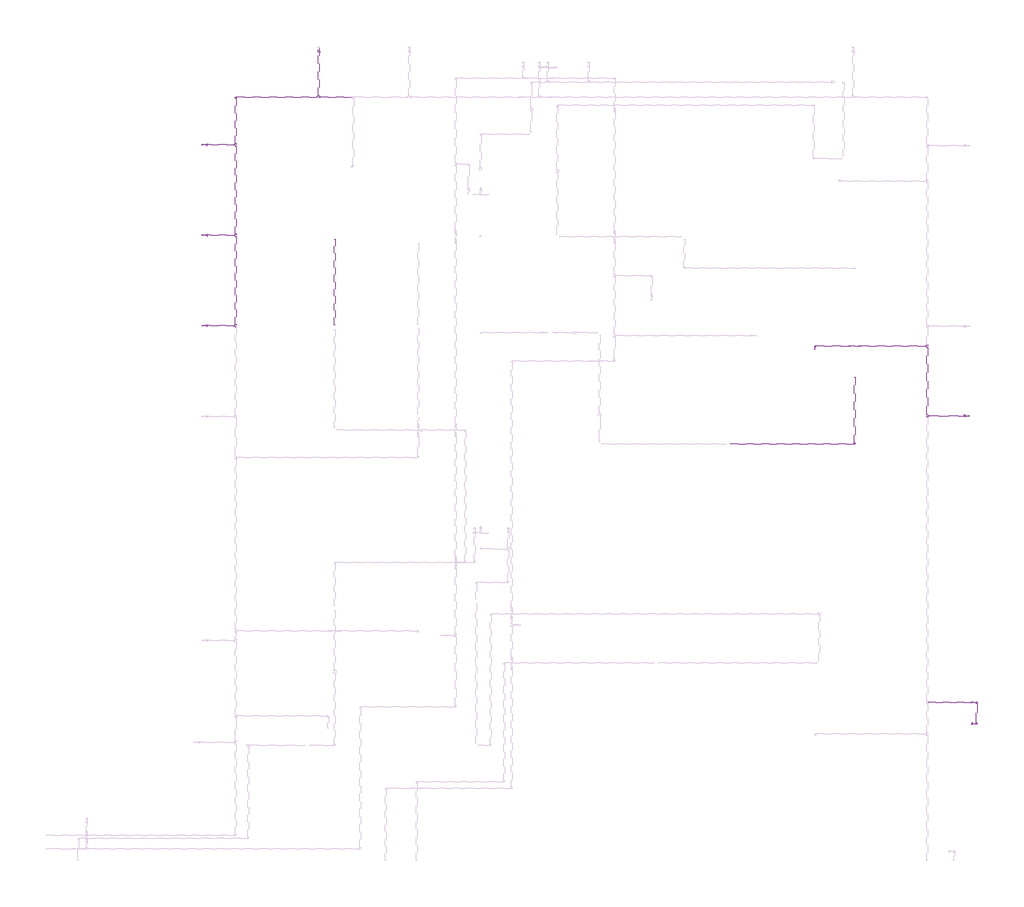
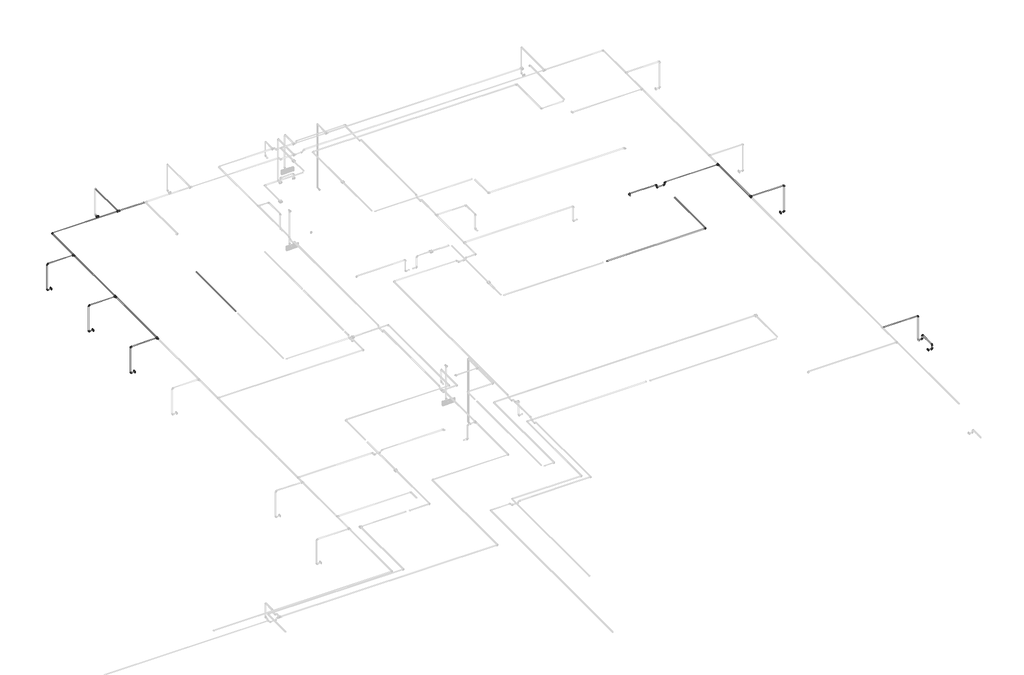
# One storey, part 37 of 40: 36 cable carrier segments, 26 cable carrier fittings, 6 electric appliances.
"""IFC4 building model written with IfcOpenShell, lengths in millimetres."""

from ifc_helpers import new_model, si_unit, point, frame, frame_2d, origin, place, context, project, spatial, circle_curve, trimmed, segment, composite_curve, outline, extrude, transform, mapped, element, save
from components import cable_carrier_fitting_69f1a801, cable_carrier_fitting_8fd13dfc, electric_appliance_5961a143

model = new_model("IFC4")

# Units and contexts
model_context = context("Model", 3, world=origin())
ifc_project = project(units=[si_unit("LENGTHUNIT", "METRE", prefix="MILLI")], contexts=[model_context])

# Site, building, storey
site = spatial("IfcSite", under=ifc_project)
building = spatial("IfcBuilding", under=site)
storey = spatial("IfcBuildingStorey", under=building, Name="1 этаж", Elevation=0.0)

# Cable carrier fittings
placement = place(None, origin())
cable_carrier_fitting_shape = cable_carrier_fitting_69f1a801(model_context)
element("IfcCableCarrierFitting", 1, ObjectType="ADSK_Поворот_Минимальный размер : Неспецифицируемый", at=placement, inside=storey, context=model_context, shape_type="MappedRepresentation", body=[
    mapped(cable_carrier_fitting_shape, transform((18157.6759979, 13844.6370105, 3189.3042076), x_axis=(0.9999999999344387, 0.0, 1.145088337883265e-05), y_axis=(2.4390715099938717e-10, 0.999999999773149, -2.130029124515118e-05), z_axis=(-1.1450883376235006e-05, 2.1300291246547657e-05, 0.9999999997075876))),
])
element("IfcCableCarrierFitting", 2, ObjectType="ADSK_Поворот_Минимальный размер : Неспецифицируемый", at=placement, inside=storey, context=model_context, shape_type="MappedRepresentation", body=[
    mapped(cable_carrier_fitting_shape, transform((5043.4761923, 18044.6370105, 2488.0911237), x_axis=(-1.0, 0.0, 0.0), y_axis=(0.0, 0.0, 1.0), z_axis=(0.0, 1.0, 0.0))),
])
element("IfcCableCarrierFitting", 3, ObjectType="ADSK_Поворот_Минимальный размер : Неспецифицируемый", at=placement, inside=storey, context=model_context, shape_type="MappedRepresentation", body=[
    mapped(cable_carrier_fitting_shape, transform((5043.4761923, 19864.6370105, 2488.0911237), x_axis=(-1.0, 0.0, 0.0), y_axis=(0.0, 0.0, 1.0), z_axis=(0.0, 1.0, 0.0))),
])
element("IfcCableCarrierFitting", 4, ObjectType="ADSK_Поворот_Минимальный размер : Неспецифицируемый", at=placement, inside=storey, context=model_context, shape_type="MappedRepresentation", body=[
    mapped(cable_carrier_fitting_shape, transform((5043.4761923, 19864.6370105, 3187.0), x_axis=(0.0, 0.0, 1.0), y_axis=(1.0, 0.0, 0.0), z_axis=(0.0, 1.0, 0.0))),
])
element("IfcCableCarrierFitting", 5, ObjectType="ADSK_Поворот_Минимальный размер : Неспецифицируемый", at=placement, inside=storey, context=model_context, shape_type="MappedRepresentation", body=[
    mapped(cable_carrier_fitting_shape, transform((5043.4761923, 18044.6370105, 3187.0), x_axis=(0.0, 0.0, 1.0), y_axis=(1.0, 0.0, 0.0), z_axis=(0.0, 1.0, 0.0))),
])
element("IfcCableCarrierFitting", 6, ObjectType="ADSK_Поворот_Минимальный размер : Неспецифицируемый", at=placement, inside=storey, context=model_context, shape_type="MappedRepresentation", body=[
    mapped(cable_carrier_fitting_shape, transform((5717.6759979, 20824.6370105, 3187.0), x_axis=(-1.0, 0.0, 0.0), y_axis=(0.0, -1.0, 0.0), z_axis=(0.0, 0.0, 1.0))),
])
element("IfcCableCarrierFitting", 7, ObjectType="ADSK_Поворот_Минимальный размер : Неспецифицируемый", at=placement, inside=storey, context=model_context, shape_type="MappedRepresentation", body=[
    mapped(cable_carrier_fitting_shape, transform((5043.4761923, 16224.6370105, 2488.0911237), x_axis=(-1.0, 0.0, 0.0), y_axis=(0.0, 0.0, 1.0), z_axis=(0.0, 1.0, 0.0))),
])
element("IfcCableCarrierFitting", 8, ObjectType="ADSK_Поворот_Минимальный размер : Неспецифицируемый", at=placement, inside=storey, context=model_context, shape_type="MappedRepresentation", body=[
    mapped(cable_carrier_fitting_shape, transform((5043.4761923, 16224.6370105, 3187.0), x_axis=(0.0, 0.0, 1.0), y_axis=(1.0, 0.0, 0.0), z_axis=(0.0, 1.0, 0.0))),
])
element("IfcCableCarrierFitting", 9, ObjectType="ADSK_Поворот_Минимальный размер : Неспецифицируемый", at=placement, inside=storey, context=model_context, shape_type="MappedRepresentation", body=[
    mapped(cable_carrier_fitting_shape, transform((20461.8758035, 14414.6370105, 2488.0911237), x_axis=(1.0, 0.0, 0.0), y_axis=(0.0, 0.0, 1.0), z_axis=(0.0, -1.0, 0.0))),
])
element("IfcCableCarrierFitting", 10, ObjectType="ADSK_Поворот_Минимальный размер : Неспецифицируемый", at=placement, inside=storey, context=model_context, shape_type="MappedRepresentation", body=[
    mapped(cable_carrier_fitting_shape, transform((20461.8758035, 14414.6370105, 3187.0), x_axis=(0.0, 0.0, 1.0), y_axis=(-1.0, 0.0, 0.0), z_axis=(0.0, -1.0, 0.0))),
])
element("IfcCableCarrierFitting", 11, ObjectType="ADSK_Поворот_Минимальный размер : Неспецифицируемый", at=placement, inside=storey, context=model_context, shape_type="MappedRepresentation", body=[
    mapped(cable_carrier_fitting_shape, transform((17357.6759979, 15820.9060659, 3187.0), x_axis=(-1.0, 0.0, 0.0), y_axis=(0.0, -1.0, 0.0), z_axis=(0.0, 0.0, 1.0))),
])
element("IfcCableCarrierFitting", 12, ObjectType="ADSK_Поворот_Минимальный размер : Неспецифицируемый", at=placement, inside=storey, context=model_context, shape_type="MappedRepresentation", body=[
    mapped(cable_carrier_fitting_shape, transform((18057.6759979, 15820.9060659, 3187.0), x_axis=(1.0, 0.0, 0.0), y_axis=(0.0, 0.0, -1.0), z_axis=(0.0, 1.0, 0.0))),
])
element("IfcCableCarrierFitting", 13, ObjectType="ADSK_Поворот_Минимальный размер : Неспецифицируемый", at=placement, inside=storey, context=model_context, shape_type="MappedRepresentation", body=[
    mapped(cable_carrier_fitting_shape, transform((18057.6759979, 15820.9060659, 3120.0), x_axis=(0.0, 0.0, -1.0), y_axis=(1.0, 0.0, 0.0), z_axis=(0.0, -1.0, 0.0))),
])
element("IfcCableCarrierFitting", 14, ObjectType="ADSK_Поворот_Минимальный размер : Неспецифицируемый", at=placement, inside=storey, context=model_context, shape_type="MappedRepresentation", body=[
    mapped(cable_carrier_fitting_shape, transform((18257.6759979, 15820.9060659, 3120.0), x_axis=(1.0, 0.0, 0.0), y_axis=(0.0, 0.0, 1.0), z_axis=(0.0, -1.0, 0.0))),
])
element("IfcCableCarrierFitting", 15, ObjectType="ADSK_Поворот_Минимальный размер : Неспецифицируемый", at=placement, inside=storey, context=model_context, shape_type="MappedRepresentation", body=[
    mapped(cable_carrier_fitting_shape, transform((18257.6759979, 15820.9060659, 3187.0), x_axis=(0.0, 0.0, 1.0), y_axis=(1.0, 0.0, 0.0), z_axis=(0.0, 1.0, 0.0))),
])
element("IfcCableCarrierFitting", 16, ObjectType="ADSK_Поворот_Минимальный размер : Неспецифицируемый", at=placement, inside=storey, context=model_context, shape_type="MappedRepresentation", body=[
    mapped(cable_carrier_fitting_shape, transform((20611.8758035, 8653.1182618, 2535.0911237), x_axis=(1.0, 0.0, 0.0), y_axis=(0.0, 0.0, 1.0), z_axis=(0.0, -1.0, 0.0))),
])
element("IfcCableCarrierFitting", 17, ObjectType="ADSK_Поворот_Минимальный размер : Неспецифицируемый", at=placement, inside=storey, context=model_context, shape_type="MappedRepresentation", body=[
    mapped(cable_carrier_fitting_shape, transform((20611.8758035, 8223.345359, 2535.0527319), x_axis=(1.0, 0.0, 0.0), y_axis=(0.0, 0.0, 1.0), z_axis=(0.0, -1.0, 0.0))),
])
element("IfcCableCarrierFitting", 18, ObjectType="ADSK_Поворот_Минимальный размер : Неспецифицируемый", at=placement, inside=storey, context=model_context, shape_type="MappedRepresentation", body=[
    mapped(cable_carrier_fitting_shape, transform((20611.8758035, 8223.345359, 2650.0), x_axis=(0.0, 0.0, 1.0), y_axis=(-0.011317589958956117, 0.9999359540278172, 0.0), z_axis=(-0.9999359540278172, -0.011317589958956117, 0.0))),
])
element("IfcCableCarrierFitting", 19, ObjectType="ADSK_Поворот_Минимальный размер : Неспецифицируемый", at=placement, inside=storey, context=model_context, shape_type="MappedRepresentation", body=[
    mapped(cable_carrier_fitting_shape, transform((20611.8758035, 8653.1182618, 2650.0), x_axis=(0.0, 0.0, 1.0), y_axis=(0.011317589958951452, -0.9999359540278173, 0.0), z_axis=(0.9999359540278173, 0.011317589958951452, 0.0))),
])
element("IfcCableCarrierFitting", 20, ObjectType="ADSK_Поворот_Минимальный размер : Неспецифицируемый", at=placement, inside=storey, context=model_context, shape_type="MappedRepresentation", body=[
    mapped(cable_carrier_fitting_shape, transform((20511.6759979, 8653.1182618, 3187.0), x_axis=(0.0, 0.0, 1.0), y_axis=(-1.0, 0.0, 0.0), z_axis=(0.0, -1.0, 0.0))),
])
cable_carrier_fitting_2_shape = cable_carrier_fitting_8fd13dfc(model_context)
element("IfcCableCarrierFitting", 21, ObjectType="ADSK_Тройник : ПВХ", at=placement, inside=storey, context=model_context, shape_type="MappedRepresentation", body=[
    mapped(cable_carrier_fitting_2_shape, transform((5717.6759979, 19864.6370105, 3187.0), x_axis=(0.0, -1.0, 0.0), y_axis=(1.0, 0.0, 0.0), z_axis=(0.0, 0.0, 1.0))),
])
element("IfcCableCarrierFitting", 22, ObjectType="ADSK_Тройник : ПВХ", at=placement, inside=storey, context=model_context, shape_type="MappedRepresentation", body=[
    mapped(cable_carrier_fitting_2_shape, transform((5717.6759979, 18044.6370105, 3187.0), x_axis=(0.0, -1.0, 0.0), y_axis=(1.0, 0.0, 0.0), z_axis=(0.0, 0.0, 1.0))),
])
element("IfcCableCarrierFitting", 23, ObjectType="ADSK_Тройник : ПВХ", at=placement, inside=storey, context=model_context, shape_type="MappedRepresentation", body=[
    mapped(cable_carrier_fitting_2_shape, transform((7387.6759979, 20824.6370105, 3187.0), x_axis=(-1.0, 0.0, 0.0), y_axis=(0.0, -1.0, 0.0), z_axis=(0.0, 0.0, 1.0))),
])
element("IfcCableCarrierFitting", 24, ObjectType="ADSK_Тройник : ПВХ", at=placement, inside=storey, context=model_context, shape_type="MappedRepresentation", body=[
    mapped(cable_carrier_fitting_2_shape, transform((5717.6759979, 16224.6370105, 3187.0), x_axis=(0.0, -1.0, 0.0), y_axis=(1.0, 0.0, 0.0), z_axis=(0.0, 0.0, 1.0))),
])
element("IfcCableCarrierFitting", 25, ObjectType="ADSK_Тройник : ПВХ", at=placement, inside=storey, context=model_context, shape_type="MappedRepresentation", body=[
    mapped(cable_carrier_fitting_2_shape, transform((19611.1577564, 14414.6370105, 3187.0), x_axis=(0.0, 1.0, 0.0), y_axis=(-1.0, 0.0, 0.0), z_axis=(0.0, 0.0, 1.0))),
])
element("IfcCableCarrierFitting", 26, ObjectType="ADSK_Тройник : ПВХ", at=placement, inside=storey, context=model_context, shape_type="MappedRepresentation", body=[
    mapped(cable_carrier_fitting_2_shape, transform((19611.1577564, 15820.9060659, 3187.0), x_axis=(0.0, -1.0, 0.0), y_axis=(1.0, 0.0, 0.0), z_axis=(0.0, 0.0, 1.0))),
])

# Cable carrier segments
element("IfcCableCarrierSegment", 27, ObjectType="Гофрированная труба", at=placement, inside=storey, context=model_context, shape_type="SweptSolid", body=[
    extrude(outline(composite_curve([segment(trimmed(circle_curve(frame_2d((0.0, 10.0)), 10.0), [point((-10.0, 10.0))], [point((0.0, 20.0))], False, "CARTESIAN"), True, "CONTINUOUS"), segment(trimmed(circle_curve(frame_2d((0.0, 10.0)), 10.0), [point((0.0, 20.0))], [point((10.0, 10.0))], False, "CARTESIAN"), True, "CONTINUOUS"), segment(trimmed(circle_curve(frame_2d((0.0, 10.0)), 10.0), [point((10.0, 10.0))], [point((0.0, 0.0))], False, "CARTESIAN"), True, "CONTINUOUS"), segment(trimmed(circle_curve(frame_2d((0.0, 10.0)), 10.0), [point((0.0, 0.0))], [point((-10.0, 10.0))], False, "CARTESIAN"), True, "CONTINUOUS")], self_intersect=False)), frame((15663.9303027, 13844.6370105, 3179.275652), z_axis=(0.9999999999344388, 0.0, 1.1450883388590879e-05), x_axis=(0.0, 1.0, 0.0)), (0.0, 0.0, 1.0), 2472.7458099),
])
element("IfcCableCarrierSegment", 28, ObjectType="Гофрированная труба", at=placement, inside=storey, context=model_context, shape_type="SweptSolid", body=[
    extrude(outline(composite_curve([segment(trimmed(circle_curve(frame_2d((0.0, -10.0)), 10.0), [point((0.0, -20.0))], [point((-10.0, -10.0))], False, "CARTESIAN"), True, "CONTINUOUS"), segment(trimmed(circle_curve(frame_2d((0.0, -10.0)), 10.0), [point((-10.0, -10.0))], [point((0.0, 0.0))], False, "CARTESIAN"), True, "CONTINUOUS"), segment(trimmed(circle_curve(frame_2d((0.0, -10.0)), 10.0), [point((0.0, 0.0))], [point((10.0, -10.0))], False, "CARTESIAN"), True, "CONTINUOUS"), segment(trimmed(circle_curve(frame_2d((0.0, -10.0)), 10.0), [point((10.0, -10.0))], [point((0.0, -20.0))], False, "CARTESIAN"), True, "CONTINUOUS")], self_intersect=False)), frame((18147.6759979, 15198.1370105, 3189.2753772), z_axis=(3.8983216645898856e-12, -0.9999999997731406, 2.130067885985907e-05), x_axis=(0.0, 2.130067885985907e-05, 0.9999999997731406)), (0.0, 0.0, 1.0), 1332.5000003),
])
element("IfcCableCarrierSegment", 29, ObjectType="Гофрированная труба", at=placement, inside=storey, context=model_context, shape_type="SweptSolid", body=[
    extrude(outline(composite_curve([segment(trimmed(circle_curve(frame_2d((3189.2996955, 7707.6757766)), 10.0), [point((3189.2996955, 7697.6757766))], [point((3179.2996955, 7707.6757766))], False, "CARTESIAN"), True, "CONTINUOUS"), segment(trimmed(circle_curve(frame_2d((3189.2996955, 7707.6757766)), 10.0), [point((3179.2996955, 7707.6757766))], [point((3189.2996955, 7717.6757766))], False, "CARTESIAN"), True, "CONTINUOUS"), segment(trimmed(circle_curve(frame_2d((3189.2996955, 7707.6757766)), 10.0), [point((3189.2996955, 7717.6757766))], [point((3199.2996955, 7707.6757766))], False, "CARTESIAN"), True, "CONTINUOUS"), segment(trimmed(circle_curve(frame_2d((3189.2996955, 7707.6757766)), 10.0), [point((3199.2996955, 7707.6757766))], [point((3189.2996955, 7697.6757766))], False, "CARTESIAN"), True, "CONTINUOUS")], self_intersect=False)), frame((0.0, 16241.1370105, 0.0), z_axis=(0.0, 1.0, 0.0), x_axis=(0.0, 0.0, 1.0)), (0.0, 0.0, 1.0), 1727.0),
])
element("IfcCableCarrierSegment", 30, ObjectType="Гофрированная труба", at=placement, inside=storey, context=model_context, shape_type="SweptSolid", body=[
    extrude(outline(composite_curve([segment(trimmed(circle_curve(frame_2d((0.0, 10.0)), 10.0), [point((0.0, 20.0))], [point((10.0, 10.0))], False, "CARTESIAN"), True, "CONTINUOUS"), segment(trimmed(circle_curve(frame_2d((0.0, 10.0)), 10.0), [point((10.0, 10.0))], [point((0.0, 0.0))], False, "CARTESIAN"), True, "CONTINUOUS"), segment(trimmed(circle_curve(frame_2d((0.0, 10.0)), 10.0), [point((0.0, 0.0))], [point((-10.0, 10.0))], False, "CARTESIAN"), True, "CONTINUOUS"), segment(trimmed(circle_curve(frame_2d((0.0, 10.0)), 10.0), [point((-10.0, 10.0))], [point((0.0, 20.0))], False, "CARTESIAN"), True, "CONTINUOUS")], self_intersect=False)), frame((5707.6759979, 19894.6370105, 3187.0), z_axis=(-1.516013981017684e-12, 1.0, 0.0), x_axis=(0.0, 0.0, 1.0)), (0.0, 0.0, 1.0), 909.0),
])
element("IfcCableCarrierSegment", 31, ObjectType="Гофрированная труба", at=placement, inside=storey, context=model_context, shape_type="SweptSolid", body=[
    extrude(outline(composite_curve([segment(trimmed(circle_curve(frame_2d((18044.6370105, 3187.0)), 10.0), [point((18034.6370105, 3187.0))], [point((18044.6370105, 3197.0))], False, "CARTESIAN"), True, "CONTINUOUS"), segment(trimmed(circle_curve(frame_2d((18044.6370105, 3187.0)), 10.0), [point((18044.6370105, 3197.0))], [point((18054.6370105, 3187.0))], False, "CARTESIAN"), True, "CONTINUOUS"), segment(trimmed(circle_curve(frame_2d((18044.6370105, 3187.0)), 10.0), [point((18054.6370105, 3187.0))], [point((18044.6370105, 3177.0))], False, "CARTESIAN"), True, "CONTINUOUS"), segment(trimmed(circle_curve(frame_2d((18044.6370105, 3187.0)), 10.0), [point((18044.6370105, 3177.0))], [point((18034.6370105, 3187.0))], False, "CARTESIAN"), True, "CONTINUOUS")], self_intersect=False)), frame((5064.4761923, 0.0, 0.0), z_axis=(1.0, 0.0, 0.0), x_axis=(0.0, 1.0, 0.0)), (0.0, 0.0, 1.0), 623.1998056),
])
element("IfcCableCarrierSegment", 32, ObjectType="Гофрированная труба", at=placement, inside=storey, context=model_context, shape_type="SweptSolid", body=[
    extrude(outline(composite_curve([segment(trimmed(circle_curve(frame_2d((18044.6370105, 2488.0911237)), 10.0), [point((18054.6370105, 2488.0911237))], [point((18044.6370105, 2478.0911237))], False, "CARTESIAN"), True, "CONTINUOUS"), segment(trimmed(circle_curve(frame_2d((18044.6370105, 2488.0911237)), 10.0), [point((18044.6370105, 2478.0911237))], [point((18034.6370105, 2488.0911237))], False, "CARTESIAN"), True, "CONTINUOUS"), segment(trimmed(circle_curve(frame_2d((18044.6370105, 2488.0911237)), 10.0), [point((18034.6370105, 2488.0911237))], [point((18044.6370105, 2498.0911237))], False, "CARTESIAN"), True, "CONTINUOUS"), segment(trimmed(circle_curve(frame_2d((18044.6370105, 2488.0911237)), 10.0), [point((18044.6370105, 2498.0911237))], [point((18054.6370105, 2488.0911237))], False, "CARTESIAN"), True, "CONTINUOUS")], self_intersect=False)), frame((5064.4761923, 0.0, 0.0), z_axis=(1.0, 0.0, 0.0), x_axis=(0.0, 1.0, 0.0)), (0.0, 0.0, 1.0), 76.1998056),
])
element("IfcCableCarrierSegment", 33, ObjectType="Гофрированная труба", at=placement, inside=storey, context=model_context, shape_type="SweptSolid", body=[
    extrude(outline(composite_curve([segment(trimmed(circle_curve(frame_2d((5043.4761923, 18044.6370105)), 10.0), [point((5033.4761923, 18044.6370105))], [point((5043.4761923, 18054.6370105))], False, "CARTESIAN"), True, "CONTINUOUS"), segment(trimmed(circle_curve(frame_2d((5043.4761923, 18044.6370105)), 10.0), [point((5043.4761923, 18054.6370105))], [point((5053.4761923, 18044.6370105))], False, "CARTESIAN"), True, "CONTINUOUS"), segment(trimmed(circle_curve(frame_2d((5043.4761923, 18044.6370105)), 10.0), [point((5053.4761923, 18044.6370105))], [point((5043.4761923, 18034.6370105))], False, "CARTESIAN"), True, "CONTINUOUS"), segment(trimmed(circle_curve(frame_2d((5043.4761923, 18044.6370105)), 10.0), [point((5043.4761923, 18034.6370105))], [point((5033.4761923, 18044.6370105))], False, "CARTESIAN"), True, "CONTINUOUS")], self_intersect=False)), frame((0.0, 0.0, 2509.0911237), z_axis=(0.0, 0.0, 1.0), x_axis=(1.0, 0.0, 0.0)), (0.0, 0.0, 1.0), 656.9088763),
])
element("IfcCableCarrierSegment", 34, ObjectType="Гофрированная труба", at=placement, inside=storey, context=model_context, shape_type="SweptSolid", body=[
    extrude(outline(composite_curve([segment(trimmed(circle_curve(frame_2d((19864.6370105, 3187.0)), 10.0), [point((19874.6370105, 3187.0))], [point((19864.6370105, 3177.0))], False, "CARTESIAN"), True, "CONTINUOUS"), segment(trimmed(circle_curve(frame_2d((19864.6370105, 3187.0)), 10.0), [point((19864.6370105, 3177.0))], [point((19854.6370105, 3187.0))], False, "CARTESIAN"), True, "CONTINUOUS"), segment(trimmed(circle_curve(frame_2d((19864.6370105, 3187.0)), 10.0), [point((19854.6370105, 3187.0))], [point((19864.6370105, 3197.0))], False, "CARTESIAN"), True, "CONTINUOUS"), segment(trimmed(circle_curve(frame_2d((19864.6370105, 3187.0)), 10.0), [point((19864.6370105, 3197.0))], [point((19874.6370105, 3187.0))], False, "CARTESIAN"), True, "CONTINUOUS")], self_intersect=False)), frame((5064.4761923, 0.0, 0.0), z_axis=(1.0, 0.0, 0.0), x_axis=(0.0, 1.0, 0.0)), (0.0, 0.0, 1.0), 623.1998056),
])
element("IfcCableCarrierSegment", 35, ObjectType="Гофрированная труба", at=placement, inside=storey, context=model_context, shape_type="SweptSolid", body=[
    extrude(outline(composite_curve([segment(trimmed(circle_curve(frame_2d((19864.6370105, 2488.0911237)), 10.0), [point((19874.6370105, 2488.0911237))], [point((19864.6370105, 2478.0911237))], False, "CARTESIAN"), True, "CONTINUOUS"), segment(trimmed(circle_curve(frame_2d((19864.6370105, 2488.0911237)), 10.0), [point((19864.6370105, 2478.0911237))], [point((19854.6370105, 2488.0911237))], False, "CARTESIAN"), True, "CONTINUOUS"), segment(trimmed(circle_curve(frame_2d((19864.6370105, 2488.0911237)), 10.0), [point((19854.6370105, 2488.0911237))], [point((19864.6370105, 2498.0911237))], False, "CARTESIAN"), True, "CONTINUOUS"), segment(trimmed(circle_curve(frame_2d((19864.6370105, 2488.0911237)), 10.0), [point((19864.6370105, 2498.0911237))], [point((19874.6370105, 2488.0911237))], False, "CARTESIAN"), True, "CONTINUOUS")], self_intersect=False)), frame((5064.4761923, 0.0, 0.0), z_axis=(1.0, 0.0, 0.0), x_axis=(0.0, 1.0, 0.0)), (0.0, 0.0, 1.0), 76.1998056),
])
element("IfcCableCarrierSegment", 36, ObjectType="Гофрированная труба", at=placement, inside=storey, context=model_context, shape_type="SweptSolid", body=[
    extrude(outline(composite_curve([segment(trimmed(circle_curve(frame_2d((5043.4761923, 19864.6370105)), 10.0), [point((5033.4761923, 19864.6370105))], [point((5043.4761923, 19874.6370105))], False, "CARTESIAN"), True, "CONTINUOUS"), segment(trimmed(circle_curve(frame_2d((5043.4761923, 19864.6370105)), 10.0), [point((5043.4761923, 19874.6370105))], [point((5053.4761923, 19864.6370105))], False, "CARTESIAN"), True, "CONTINUOUS"), segment(trimmed(circle_curve(frame_2d((5043.4761923, 19864.6370105)), 10.0), [point((5053.4761923, 19864.6370105))], [point((5043.4761923, 19854.6370105))], False, "CARTESIAN"), True, "CONTINUOUS"), segment(trimmed(circle_curve(frame_2d((5043.4761923, 19864.6370105)), 10.0), [point((5043.4761923, 19854.6370105))], [point((5033.4761923, 19864.6370105))], False, "CARTESIAN"), True, "CONTINUOUS")], self_intersect=False)), frame((0.0, 0.0, 2509.0911237), z_axis=(0.0, 0.0, 1.0), x_axis=(1.0, 0.0, 0.0)), (0.0, 0.0, 1.0), 656.9088763),
])
element("IfcCableCarrierSegment", 37, ObjectType="Гофрированная труба", at=placement, inside=storey, context=model_context, shape_type="SweptSolid", body=[
    extrude(outline(composite_curve([segment(trimmed(circle_curve(frame_2d((3187.0, 5717.6759979)), 10.0), [point((3187.0, 5727.6759979))], [point((3197.0, 5717.6759979))], False, "CARTESIAN"), True, "CONTINUOUS"), segment(trimmed(circle_curve(frame_2d((3187.0, 5717.6759979)), 10.0), [point((3197.0, 5717.6759979))], [point((3187.0, 5707.6759979))], False, "CARTESIAN"), True, "CONTINUOUS"), segment(trimmed(circle_curve(frame_2d((3187.0, 5717.6759979)), 10.0), [point((3187.0, 5707.6759979))], [point((3177.0, 5717.6759979))], False, "CARTESIAN"), True, "CONTINUOUS"), segment(trimmed(circle_curve(frame_2d((3187.0, 5717.6759979)), 10.0), [point((3177.0, 5717.6759979))], [point((3187.0, 5727.6759979))], False, "CARTESIAN"), True, "CONTINUOUS")], self_intersect=False)), frame((0.0, 18074.6370105, 0.0), z_axis=(0.0, 1.0, 0.0), x_axis=(0.0, 0.0, 1.0)), (0.0, 0.0, 1.0), 1760.0),
])
element("IfcCableCarrierSegment", 38, ObjectType="Гофрированная труба", at=placement, inside=storey, context=model_context, shape_type="SweptSolid", body=[
    extrude(outline(composite_curve([segment(trimmed(circle_curve(frame_2d((20824.6370105, 3187.0)), 10.0), [point((20814.6370105, 3187.0))], [point((20824.6370105, 3197.0))], False, "CARTESIAN"), True, "CONTINUOUS"), segment(trimmed(circle_curve(frame_2d((20824.6370105, 3187.0)), 10.0), [point((20824.6370105, 3197.0))], [point((20834.6370105, 3187.0))], False, "CARTESIAN"), True, "CONTINUOUS"), segment(trimmed(circle_curve(frame_2d((20824.6370105, 3187.0)), 10.0), [point((20834.6370105, 3187.0))], [point((20824.6370105, 3177.0))], False, "CARTESIAN"), True, "CONTINUOUS"), segment(trimmed(circle_curve(frame_2d((20824.6370105, 3187.0)), 10.0), [point((20824.6370105, 3177.0))], [point((20814.6370105, 3187.0))], False, "CARTESIAN"), True, "CONTINUOUS")], self_intersect=False)), frame((7417.6759979, 0.0, 0.0), z_axis=(1.0, 0.0, 0.0), x_axis=(0.0, 1.0, 0.0)), (0.0, 0.0, 1.0), 630.0),
])
element("IfcCableCarrierSegment", 39, ObjectType="Гофрированная труба", at=placement, inside=storey, context=model_context, shape_type="SweptSolid", body=[
    extrude(outline(composite_curve([segment(trimmed(circle_curve(frame_2d((3187.0, 7387.6759979)), 10.0), [point((3187.0, 7397.6759979))], [point((3197.0, 7387.6759979))], False, "CARTESIAN"), True, "CONTINUOUS"), segment(trimmed(circle_curve(frame_2d((3187.0, 7387.6759979)), 10.0), [point((3197.0, 7387.6759979))], [point((3187.0, 7377.6759979))], False, "CARTESIAN"), True, "CONTINUOUS"), segment(trimmed(circle_curve(frame_2d((3187.0, 7387.6759979)), 10.0), [point((3187.0, 7377.6759979))], [point((3177.0, 7387.6759979))], False, "CARTESIAN"), True, "CONTINUOUS"), segment(trimmed(circle_curve(frame_2d((3187.0, 7387.6759979)), 10.0), [point((3177.0, 7387.6759979))], [point((3187.0, 7397.6759979))], False, "CARTESIAN"), True, "CONTINUOUS")], self_intersect=False)), frame((0.0, 20854.6370105, 0.0), z_axis=(0.0, 1.0, 0.0), x_axis=(0.0, 0.0, 1.0)), (0.0, 0.0, 1.0), 953.1998056),
])
element("IfcCableCarrierSegment", 40, ObjectType="Гофрированная труба", at=placement, inside=storey, context=model_context, shape_type="SweptSolid", body=[
    extrude(outline(composite_curve([segment(trimmed(circle_curve(frame_2d((2488.0911237, 7387.6759979)), 10.0), [point((2488.0911237, 7397.6759979))], [point((2498.0911237, 7387.6759979))], False, "CARTESIAN"), True, "CONTINUOUS"), segment(trimmed(circle_curve(frame_2d((2488.0911237, 7387.6759979)), 10.0), [point((2498.0911237, 7387.6759979))], [point((2488.0911237, 7377.6759979))], False, "CARTESIAN"), True, "CONTINUOUS"), segment(trimmed(circle_curve(frame_2d((2488.0911237, 7387.6759979)), 10.0), [point((2488.0911237, 7377.6759979))], [point((2478.0911237, 7387.6759979))], False, "CARTESIAN"), True, "CONTINUOUS"), segment(trimmed(circle_curve(frame_2d((2488.0911237, 7387.6759979)), 10.0), [point((2478.0911237, 7387.6759979))], [point((2488.0911237, 7397.6759979))], False, "CARTESIAN"), True, "CONTINUOUS")], self_intersect=False)), frame((0.0, 21731.6370105, 0.0), z_axis=(0.0, 1.0, 0.0), x_axis=(0.0, 0.0, 1.0)), (0.0, 0.0, 1.0), 76.1998056),
])
element("IfcCableCarrierSegment", 41, ObjectType="Гофрированная труба", at=placement, inside=storey, context=model_context, shape_type="SweptSolid", body=[
    extrude(outline(composite_curve([segment(trimmed(circle_curve(frame_2d((0.0, 10.0)), 10.0), [point((-10.0, 10.0))], [point((0.0, 20.0))], False, "CARTESIAN"), True, "CONTINUOUS"), segment(trimmed(circle_curve(frame_2d((0.0, 10.0)), 10.0), [point((0.0, 20.0))], [point((10.0, 10.0))], False, "CARTESIAN"), True, "CONTINUOUS"), segment(trimmed(circle_curve(frame_2d((0.0, 10.0)), 10.0), [point((10.0, 10.0))], [point((0.0, 0.0))], False, "CARTESIAN"), True, "CONTINUOUS"), segment(trimmed(circle_curve(frame_2d((0.0, 10.0)), 10.0), [point((0.0, 0.0))], [point((-10.0, 10.0))], False, "CARTESIAN"), True, "CONTINUOUS")], self_intersect=False)), frame((5738.6759979, 20824.6370105, 3177.0), z_axis=(1.0, 0.0, 4.114895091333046e-12), x_axis=(0.0, 1.0, 0.0)), (0.0, 0.0, 1.0), 1619.0),
])
element("IfcCableCarrierSegment", 42, ObjectType="Гофрированная труба", at=placement, inside=storey, context=model_context, shape_type="SweptSolid", body=[
    extrude(outline(composite_curve([segment(trimmed(circle_curve(frame_2d((16224.6370105, 3187.0)), 10.0), [point((16234.6370105, 3187.0))], [point((16224.6370105, 3177.0))], False, "CARTESIAN"), True, "CONTINUOUS"), segment(trimmed(circle_curve(frame_2d((16224.6370105, 3187.0)), 10.0), [point((16224.6370105, 3177.0))], [point((16214.6370105, 3187.0))], False, "CARTESIAN"), True, "CONTINUOUS"), segment(trimmed(circle_curve(frame_2d((16224.6370105, 3187.0)), 10.0), [point((16214.6370105, 3187.0))], [point((16224.6370105, 3197.0))], False, "CARTESIAN"), True, "CONTINUOUS"), segment(trimmed(circle_curve(frame_2d((16224.6370105, 3187.0)), 10.0), [point((16224.6370105, 3197.0))], [point((16234.6370105, 3187.0))], False, "CARTESIAN"), True, "CONTINUOUS")], self_intersect=False)), frame((5064.4761923, 0.0, 0.0), z_axis=(1.0, 0.0, 0.0), x_axis=(0.0, 1.0, 0.0)), (0.0, 0.0, 1.0), 623.1998056),
])
element("IfcCableCarrierSegment", 43, ObjectType="Гофрированная труба", at=placement, inside=storey, context=model_context, shape_type="SweptSolid", body=[
    extrude(outline(composite_curve([segment(trimmed(circle_curve(frame_2d((16224.6370105, 2488.0911237)), 10.0), [point((16234.6370105, 2488.0911237))], [point((16224.6370105, 2478.0911237))], False, "CARTESIAN"), True, "CONTINUOUS"), segment(trimmed(circle_curve(frame_2d((16224.6370105, 2488.0911237)), 10.0), [point((16224.6370105, 2478.0911237))], [point((16214.6370105, 2488.0911237))], False, "CARTESIAN"), True, "CONTINUOUS"), segment(trimmed(circle_curve(frame_2d((16224.6370105, 2488.0911237)), 10.0), [point((16214.6370105, 2488.0911237))], [point((16224.6370105, 2498.0911237))], False, "CARTESIAN"), True, "CONTINUOUS"), segment(trimmed(circle_curve(frame_2d((16224.6370105, 2488.0911237)), 10.0), [point((16224.6370105, 2498.0911237))], [point((16234.6370105, 2488.0911237))], False, "CARTESIAN"), True, "CONTINUOUS")], self_intersect=False)), frame((5064.4761923, 0.0, 0.0), z_axis=(1.0, 0.0, 0.0), x_axis=(0.0, 1.0, 0.0)), (0.0, 0.0, 1.0), 76.1998056),
])
element("IfcCableCarrierSegment", 44, ObjectType="Гофрированная труба", at=placement, inside=storey, context=model_context, shape_type="SweptSolid", body=[
    extrude(outline(composite_curve([segment(trimmed(circle_curve(frame_2d((5043.4761923, 16224.6370105)), 10.0), [point((5033.4761923, 16224.6370105))], [point((5043.4761923, 16234.6370105))], False, "CARTESIAN"), True, "CONTINUOUS"), segment(trimmed(circle_curve(frame_2d((5043.4761923, 16224.6370105)), 10.0), [point((5043.4761923, 16234.6370105))], [point((5053.4761923, 16224.6370105))], False, "CARTESIAN"), True, "CONTINUOUS"), segment(trimmed(circle_curve(frame_2d((5043.4761923, 16224.6370105)), 10.0), [point((5053.4761923, 16224.6370105))], [point((5043.4761923, 16214.6370105))], False, "CARTESIAN"), True, "CONTINUOUS"), segment(trimmed(circle_curve(frame_2d((5043.4761923, 16224.6370105)), 10.0), [point((5043.4761923, 16214.6370105))], [point((5033.4761923, 16224.6370105))], False, "CARTESIAN"), True, "CONTINUOUS")], self_intersect=False)), frame((0.0, 0.0, 2509.0911237), z_axis=(0.0, 0.0, 1.0), x_axis=(1.0, 0.0, 0.0)), (0.0, 0.0, 1.0), 656.9088763),
])
element("IfcCableCarrierSegment", 45, ObjectType="Гофрированная труба", at=placement, inside=storey, context=model_context, shape_type="SweptSolid", body=[
    extrude(outline(composite_curve([segment(trimmed(circle_curve(frame_2d((14414.6370105, 3187.0)), 10.0), [point((14404.6370105, 3187.0))], [point((14414.6370105, 3197.0))], False, "CARTESIAN"), True, "CONTINUOUS"), segment(trimmed(circle_curve(frame_2d((14414.6370105, 3187.0)), 10.0), [point((14414.6370105, 3197.0))], [point((14424.6370105, 3187.0))], False, "CARTESIAN"), True, "CONTINUOUS"), segment(trimmed(circle_curve(frame_2d((14414.6370105, 3187.0)), 10.0), [point((14424.6370105, 3187.0))], [point((14414.6370105, 3177.0))], False, "CARTESIAN"), True, "CONTINUOUS"), segment(trimmed(circle_curve(frame_2d((14414.6370105, 3187.0)), 10.0), [point((14414.6370105, 3177.0))], [point((14404.6370105, 3187.0))], False, "CARTESIAN"), True, "CONTINUOUS")], self_intersect=False)), frame((19641.1577564, 0.0, 0.0), z_axis=(1.0, 0.0, 0.0), x_axis=(0.0, 1.0, 0.0)), (0.0, 0.0, 1.0), 799.7180471),
])
element("IfcCableCarrierSegment", 46, ObjectType="Гофрированная труба", at=placement, inside=storey, context=model_context, shape_type="SweptSolid", body=[
    extrude(outline(composite_curve([segment(trimmed(circle_curve(frame_2d((14414.6370105, 2488.0911237)), 10.0), [point((14404.6370105, 2488.0911237))], [point((14414.6370105, 2498.0911237))], False, "CARTESIAN"), True, "CONTINUOUS"), segment(trimmed(circle_curve(frame_2d((14414.6370105, 2488.0911237)), 10.0), [point((14414.6370105, 2498.0911237))], [point((14424.6370105, 2488.0911237))], False, "CARTESIAN"), True, "CONTINUOUS"), segment(trimmed(circle_curve(frame_2d((14414.6370105, 2488.0911237)), 10.0), [point((14424.6370105, 2488.0911237))], [point((14414.6370105, 2478.0911237))], False, "CARTESIAN"), True, "CONTINUOUS"), segment(trimmed(circle_curve(frame_2d((14414.6370105, 2488.0911237)), 10.0), [point((14414.6370105, 2478.0911237))], [point((14404.6370105, 2488.0911237))], False, "CARTESIAN"), True, "CONTINUOUS")], self_intersect=False)), frame((20364.6759979, 0.0, 0.0), z_axis=(1.0, 0.0, 0.0), x_axis=(0.0, 1.0, 0.0)), (0.0, 0.0, 1.0), 76.1998056),
])
element("IfcCableCarrierSegment", 47, ObjectType="Гофрированная труба", at=placement, inside=storey, context=model_context, shape_type="SweptSolid", body=[
    extrude(outline(composite_curve([segment(trimmed(circle_curve(frame_2d((20461.8758035, 14414.6370105)), 10.0), [point((20451.8758035, 14414.6370105))], [point((20461.8758035, 14424.6370105))], False, "CARTESIAN"), True, "CONTINUOUS"), segment(trimmed(circle_curve(frame_2d((20461.8758035, 14414.6370105)), 10.0), [point((20461.8758035, 14424.6370105))], [point((20471.8758035, 14414.6370105))], False, "CARTESIAN"), True, "CONTINUOUS"), segment(trimmed(circle_curve(frame_2d((20461.8758035, 14414.6370105)), 10.0), [point((20471.8758035, 14414.6370105))], [point((20461.8758035, 14404.6370105))], False, "CARTESIAN"), True, "CONTINUOUS"), segment(trimmed(circle_curve(frame_2d((20461.8758035, 14414.6370105)), 10.0), [point((20461.8758035, 14404.6370105))], [point((20451.8758035, 14414.6370105))], False, "CARTESIAN"), True, "CONTINUOUS")], self_intersect=False)), frame((0.0, 0.0, 2509.0911237), z_axis=(0.0, 0.0, 1.0), x_axis=(1.0, 0.0, 0.0)), (0.0, 0.0, 1.0), 656.9088763),
])
element("IfcCableCarrierSegment", 48, ObjectType="Гофрированная труба", at=placement, inside=storey, context=model_context, shape_type="SweptSolid", body=[
    extrude(outline(composite_curve([segment(trimmed(circle_curve(frame_2d((3187.0, 19611.1577564)), 10.0), [point((3187.0, 19601.1577564))], [point((3177.0, 19611.1577564))], False, "CARTESIAN"), True, "CONTINUOUS"), segment(trimmed(circle_curve(frame_2d((3187.0, 19611.1577564)), 10.0), [point((3177.0, 19611.1577564))], [point((3187.0, 19621.1577564))], False, "CARTESIAN"), True, "CONTINUOUS"), segment(trimmed(circle_curve(frame_2d((3187.0, 19611.1577564)), 10.0), [point((3187.0, 19621.1577564))], [point((3197.0, 19611.1577564))], False, "CARTESIAN"), True, "CONTINUOUS"), segment(trimmed(circle_curve(frame_2d((3187.0, 19611.1577564)), 10.0), [point((3197.0, 19611.1577564))], [point((3187.0, 19601.1577564))], False, "CARTESIAN"), True, "CONTINUOUS")], self_intersect=False)), frame((0.0, 14444.6370105, 0.0), z_axis=(0.0, 1.0, 0.0), x_axis=(0.0, 0.0, 1.0)), (0.0, 0.0, 1.0), 1346.2690554),
])
element("IfcCableCarrierSegment", 49, ObjectType="Гофрированная труба", at=placement, inside=storey, context=model_context, shape_type="SweptSolid", body=[
    extrude(outline(composite_curve([segment(trimmed(circle_curve(frame_2d((3187.0, 17357.6759979)), 10.0), [point((3187.0, 17367.6759979))], [point((3197.0, 17357.6759979))], False, "CARTESIAN"), True, "CONTINUOUS"), segment(trimmed(circle_curve(frame_2d((3187.0, 17357.6759979)), 10.0), [point((3197.0, 17357.6759979))], [point((3187.0, 17347.6759979))], False, "CARTESIAN"), True, "CONTINUOUS"), segment(trimmed(circle_curve(frame_2d((3187.0, 17357.6759979)), 10.0), [point((3187.0, 17347.6759979))], [point((3177.0, 17357.6759979))], False, "CARTESIAN"), True, "CONTINUOUS"), segment(trimmed(circle_curve(frame_2d((3187.0, 17357.6759979)), 10.0), [point((3177.0, 17357.6759979))], [point((3187.0, 17367.6759979))], False, "CARTESIAN"), True, "CONTINUOUS")], self_intersect=False)), frame((0.0, 15747.1370105, 0.0), z_axis=(0.0, 1.0, 0.0), x_axis=(0.0, 0.0, 1.0)), (0.0, 0.0, 1.0), 52.7690554),
])
element("IfcCableCarrierSegment", 50, ObjectType="Гофрированная труба", at=placement, inside=storey, context=model_context, shape_type="SweptSolid", body=[
    extrude(outline(composite_curve([segment(trimmed(circle_curve(frame_2d((15820.9060659, 3187.0)), 10.0), [point((15810.9060659, 3187.0))], [point((15820.9060659, 3197.0))], False, "CARTESIAN"), True, "CONTINUOUS"), segment(trimmed(circle_curve(frame_2d((15820.9060659, 3187.0)), 10.0), [point((15820.9060659, 3197.0))], [point((15830.9060659, 3187.0))], False, "CARTESIAN"), True, "CONTINUOUS"), segment(trimmed(circle_curve(frame_2d((15820.9060659, 3187.0)), 10.0), [point((15830.9060659, 3187.0))], [point((15820.9060659, 3177.0))], False, "CARTESIAN"), True, "CONTINUOUS"), segment(trimmed(circle_curve(frame_2d((15820.9060659, 3187.0)), 10.0), [point((15820.9060659, 3177.0))], [point((15810.9060659, 3187.0))], False, "CARTESIAN"), True, "CONTINUOUS")], self_intersect=False)), frame((17378.6759979, 0.0, 0.0), z_axis=(1.0, 0.0, 0.0), x_axis=(0.0, 1.0, 0.0)), (0.0, 0.0, 1.0), 658.0),
])
element("IfcCableCarrierSegment", 51, ObjectType="Гофрированная труба", at=placement, inside=storey, context=model_context, shape_type="SweptSolid", body=[
    extrude(outline(composite_curve([segment(trimmed(circle_curve(frame_2d((15820.9060659, 3120.0)), 10.0), [point((15810.9060659, 3120.0))], [point((15820.9060659, 3130.0))], False, "CARTESIAN"), True, "CONTINUOUS"), segment(trimmed(circle_curve(frame_2d((15820.9060659, 3120.0)), 10.0), [point((15820.9060659, 3130.0))], [point((15830.9060659, 3120.0))], False, "CARTESIAN"), True, "CONTINUOUS"), segment(trimmed(circle_curve(frame_2d((15820.9060659, 3120.0)), 10.0), [point((15830.9060659, 3120.0))], [point((15820.9060659, 3110.0))], False, "CARTESIAN"), True, "CONTINUOUS"), segment(trimmed(circle_curve(frame_2d((15820.9060659, 3120.0)), 10.0), [point((15820.9060659, 3110.0))], [point((15810.9060659, 3120.0))], False, "CARTESIAN"), True, "CONTINUOUS")], self_intersect=False)), frame((18078.6759979, 0.0, 0.0), z_axis=(1.0, 0.0, 0.0), x_axis=(0.0, 1.0, 0.0)), (0.0, 0.0, 1.0), 158.0),
])
element("IfcCableCarrierSegment", 52, ObjectType="Гофрированная труба", at=placement, inside=storey, context=model_context, shape_type="SweptSolid", body=[
    extrude(outline(composite_curve([segment(trimmed(circle_curve(frame_2d((18057.6759979, 15820.9060659)), 10.0), [point((18067.6759979, 15820.9060659))], [point((18057.6759979, 15810.9060659))], False, "CARTESIAN"), True, "CONTINUOUS"), segment(trimmed(circle_curve(frame_2d((18057.6759979, 15820.9060659)), 10.0), [point((18057.6759979, 15810.9060659))], [point((18047.6759979, 15820.9060659))], False, "CARTESIAN"), True, "CONTINUOUS"), segment(trimmed(circle_curve(frame_2d((18057.6759979, 15820.9060659)), 10.0), [point((18047.6759979, 15820.9060659))], [point((18057.6759979, 15830.9060659))], False, "CARTESIAN"), True, "CONTINUOUS"), segment(trimmed(circle_curve(frame_2d((18057.6759979, 15820.9060659)), 10.0), [point((18057.6759979, 15830.9060659))], [point((18067.6759979, 15820.9060659))], False, "CARTESIAN"), True, "CONTINUOUS")], self_intersect=False)), frame((0.0, 0.0, 3141.0), z_axis=(0.0, 0.0, 1.0), x_axis=(1.0, 0.0, 0.0)), (0.0, 0.0, 1.0), 25.0),
])
element("IfcCableCarrierSegment", 53, ObjectType="Гофрированная труба", at=placement, inside=storey, context=model_context, shape_type="SweptSolid", body=[
    extrude(outline(composite_curve([segment(trimmed(circle_curve(frame_2d((15820.9060659, 3187.0)), 10.0), [point((15830.9060659, 3187.0))], [point((15820.9060659, 3177.0))], False, "CARTESIAN"), True, "CONTINUOUS"), segment(trimmed(circle_curve(frame_2d((15820.9060659, 3187.0)), 10.0), [point((15820.9060659, 3177.0))], [point((15810.9060659, 3187.0))], False, "CARTESIAN"), True, "CONTINUOUS"), segment(trimmed(circle_curve(frame_2d((15820.9060659, 3187.0)), 10.0), [point((15810.9060659, 3187.0))], [point((15820.9060659, 3197.0))], False, "CARTESIAN"), True, "CONTINUOUS"), segment(trimmed(circle_curve(frame_2d((15820.9060659, 3187.0)), 10.0), [point((15820.9060659, 3197.0))], [point((15830.9060659, 3187.0))], False, "CARTESIAN"), True, "CONTINUOUS")], self_intersect=False)), frame((18278.6759979, 0.0, 0.0), z_axis=(1.0, 0.0, 0.0), x_axis=(0.0, 1.0, 0.0)), (0.0, 0.0, 1.0), 1302.4817585),
])
element("IfcCableCarrierSegment", 54, ObjectType="Гофрированная труба", at=placement, inside=storey, context=model_context, shape_type="SweptSolid", body=[
    extrude(outline(composite_curve([segment(trimmed(circle_curve(frame_2d((18257.6759979, 15820.9060659)), 10.0), [point((18247.6759979, 15820.9060659))], [point((18257.6759979, 15830.9060659))], False, "CARTESIAN"), True, "CONTINUOUS"), segment(trimmed(circle_curve(frame_2d((18257.6759979, 15820.9060659)), 10.0), [point((18257.6759979, 15830.9060659))], [point((18267.6759979, 15820.9060659))], False, "CARTESIAN"), True, "CONTINUOUS"), segment(trimmed(circle_curve(frame_2d((18257.6759979, 15820.9060659)), 10.0), [point((18267.6759979, 15820.9060659))], [point((18257.6759979, 15810.9060659))], False, "CARTESIAN"), True, "CONTINUOUS"), segment(trimmed(circle_curve(frame_2d((18257.6759979, 15820.9060659)), 10.0), [point((18257.6759979, 15810.9060659))], [point((18247.6759979, 15820.9060659))], False, "CARTESIAN"), True, "CONTINUOUS")], self_intersect=False)), frame((0.0, 0.0, 3141.0), z_axis=(0.0, 0.0, 1.0), x_axis=(1.0, 0.0, 0.0)), (0.0, 0.0, 1.0), 25.0),
])
element("IfcCableCarrierSegment", 55, ObjectType="Гофрированная труба", at=placement, inside=storey, context=model_context, shape_type="SweptSolid", body=[
    extrude(outline(composite_curve([segment(trimmed(circle_curve(frame_2d((0.0, 10.0)), 10.0), [point((0.0, 20.0))], [point((10.0, 10.0))], False, "CARTESIAN"), True, "CONTINUOUS"), segment(trimmed(circle_curve(frame_2d((0.0, 10.0)), 10.0), [point((10.0, 10.0))], [point((0.0, 0.0))], False, "CARTESIAN"), True, "CONTINUOUS"), segment(trimmed(circle_curve(frame_2d((0.0, 10.0)), 10.0), [point((0.0, 0.0))], [point((-10.0, 10.0))], False, "CARTESIAN"), True, "CONTINUOUS"), segment(trimmed(circle_curve(frame_2d((0.0, 10.0)), 10.0), [point((-10.0, 10.0))], [point((0.0, 20.0))], False, "CARTESIAN"), True, "CONTINUOUS")], self_intersect=False)), frame((20601.6381416, 8244.3562721, 2650.0), z_axis=(0.001225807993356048, 0.9999992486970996, 0.0), x_axis=(0.0, 0.0, 1.0)), (0.0, 0.0, 1.0), 387.775884),
])
element("IfcCableCarrierSegment", 56, ObjectType="Гофрированная труба", at=placement, inside=storey, context=model_context, shape_type="SweptSolid", body=[
    extrude(outline(composite_curve([segment(trimmed(circle_curve(frame_2d((8653.1182618, 2535.0911237)), 10.0), [point((8643.1182618, 2535.0911237))], [point((8653.1182618, 2545.0911237))], False, "CARTESIAN"), True, "CONTINUOUS"), segment(trimmed(circle_curve(frame_2d((8653.1182618, 2535.0911237)), 10.0), [point((8653.1182618, 2545.0911237))], [point((8663.1182618, 2535.0911237))], False, "CARTESIAN"), True, "CONTINUOUS"), segment(trimmed(circle_curve(frame_2d((8653.1182618, 2535.0911237)), 10.0), [point((8663.1182618, 2535.0911237))], [point((8653.1182618, 2525.0911237))], False, "CARTESIAN"), True, "CONTINUOUS"), segment(trimmed(circle_curve(frame_2d((8653.1182618, 2535.0911237)), 10.0), [point((8653.1182618, 2525.0911237))], [point((8643.1182618, 2535.0911237))], False, "CARTESIAN"), True, "CONTINUOUS")], self_intersect=False)), frame((20514.6759979, 0.0, 0.0), z_axis=(1.0, 0.0, 0.0), x_axis=(0.0, 1.0, 0.0)), (0.0, 0.0, 1.0), 76.1998056),
])
element("IfcCableCarrierSegment", 57, ObjectType="Гофрированная труба", at=placement, inside=storey, context=model_context, shape_type="SweptSolid", body=[
    extrude(outline(composite_curve([segment(trimmed(circle_curve(frame_2d((20611.8758035, 8653.1182618)), 10.0), [point((20601.8758035, 8653.1182618))], [point((20611.8758035, 8663.1182618))], False, "CARTESIAN"), True, "CONTINUOUS"), segment(trimmed(circle_curve(frame_2d((20611.8758035, 8653.1182618)), 10.0), [point((20611.8758035, 8663.1182618))], [point((20621.8758035, 8653.1182618))], False, "CARTESIAN"), True, "CONTINUOUS"), segment(trimmed(circle_curve(frame_2d((20611.8758035, 8653.1182618)), 10.0), [point((20621.8758035, 8653.1182618))], [point((20611.8758035, 8643.1182618))], False, "CARTESIAN"), True, "CONTINUOUS"), segment(trimmed(circle_curve(frame_2d((20611.8758035, 8653.1182618)), 10.0), [point((20611.8758035, 8643.1182618))], [point((20601.8758035, 8653.1182618))], False, "CARTESIAN"), True, "CONTINUOUS")], self_intersect=False)), frame((0.0, 0.0, 2556.0911237), z_axis=(0.0, 0.0, 1.0), x_axis=(1.0, 0.0, 0.0)), (0.0, 0.0, 1.0), 72.9088763),
])
element("IfcCableCarrierSegment", 58, ObjectType="Гофрированная труба", at=placement, inside=storey, context=model_context, shape_type="SweptSolid", body=[
    extrude(outline(composite_curve([segment(trimmed(circle_curve(frame_2d((8223.345359, 2535.0527319)), 10.0), [point((8213.345359, 2535.0527319))], [point((8223.345359, 2545.0527319))], False, "CARTESIAN"), True, "CONTINUOUS"), segment(trimmed(circle_curve(frame_2d((8223.345359, 2535.0527319)), 10.0), [point((8223.345359, 2545.0527319))], [point((8233.345359, 2535.0527319))], False, "CARTESIAN"), True, "CONTINUOUS"), segment(trimmed(circle_curve(frame_2d((8223.345359, 2535.0527319)), 10.0), [point((8233.345359, 2535.0527319))], [point((8223.345359, 2525.0527319))], False, "CARTESIAN"), True, "CONTINUOUS"), segment(trimmed(circle_curve(frame_2d((8223.345359, 2535.0527319)), 10.0), [point((8223.345359, 2525.0527319))], [point((8213.345359, 2535.0527319))], False, "CARTESIAN"), True, "CONTINUOUS")], self_intersect=False)), frame((20514.6759979, 0.0, 0.0), z_axis=(1.0, 0.0, 0.0), x_axis=(0.0, 1.0, 0.0)), (0.0, 0.0, 1.0), 76.1998056),
])
element("IfcCableCarrierSegment", 59, ObjectType="Гофрированная труба", at=placement, inside=storey, context=model_context, shape_type="SweptSolid", body=[
    extrude(outline(composite_curve([segment(trimmed(circle_curve(frame_2d((20611.8758035, 8223.345359)), 10.0), [point((20601.8758035, 8223.345359))], [point((20611.8758035, 8233.345359))], False, "CARTESIAN"), True, "CONTINUOUS"), segment(trimmed(circle_curve(frame_2d((20611.8758035, 8223.345359)), 10.0), [point((20611.8758035, 8233.345359))], [point((20621.8758035, 8223.345359))], False, "CARTESIAN"), True, "CONTINUOUS"), segment(trimmed(circle_curve(frame_2d((20611.8758035, 8223.345359)), 10.0), [point((20621.8758035, 8223.345359))], [point((20611.8758035, 8213.345359))], False, "CARTESIAN"), True, "CONTINUOUS"), segment(trimmed(circle_curve(frame_2d((20611.8758035, 8223.345359)), 10.0), [point((20611.8758035, 8213.345359))], [point((20601.8758035, 8223.345359))], False, "CARTESIAN"), True, "CONTINUOUS")], self_intersect=False)), frame((0.0, 0.0, 2556.0527319), z_axis=(0.0, 0.0, 1.0), x_axis=(1.0, 0.0, 0.0)), (0.0, 0.0, 1.0), 72.9472681),
])
element("IfcCableCarrierSegment", 60, ObjectType="Гофрированная труба", at=placement, inside=storey, context=model_context, shape_type="SweptSolid", body=[
    extrude(outline(composite_curve([segment(trimmed(circle_curve(frame_2d((8653.1182618, 3187.0)), 10.0), [point((8643.1182618, 3187.0))], [point((8653.1182618, 3197.0))], False, "CARTESIAN"), True, "CONTINUOUS"), segment(trimmed(circle_curve(frame_2d((8653.1182618, 3187.0)), 10.0), [point((8653.1182618, 3197.0))], [point((8663.1182618, 3187.0))], False, "CARTESIAN"), True, "CONTINUOUS"), segment(trimmed(circle_curve(frame_2d((8653.1182618, 3187.0)), 10.0), [point((8663.1182618, 3187.0))], [point((8653.1182618, 3177.0))], False, "CARTESIAN"), True, "CONTINUOUS"), segment(trimmed(circle_curve(frame_2d((8653.1182618, 3187.0)), 10.0), [point((8653.1182618, 3177.0))], [point((8643.1182618, 3187.0))], False, "CARTESIAN"), True, "CONTINUOUS")], self_intersect=False)), frame((19641.1577564, 0.0, 0.0), z_axis=(1.0, 0.0, 0.0), x_axis=(0.0, 1.0, 0.0)), (0.0, 0.0, 1.0), 849.5182415),
])
element("IfcCableCarrierSegment", 61, ObjectType="Гофрированная труба", at=placement, inside=storey, context=model_context, shape_type="SweptSolid", body=[
    extrude(outline(composite_curve([segment(trimmed(circle_curve(frame_2d((20511.6759979, 8653.1182618)), 10.0), [point((20501.6759979, 8653.1182618))], [point((20511.6759979, 8663.1182618))], False, "CARTESIAN"), True, "CONTINUOUS"), segment(trimmed(circle_curve(frame_2d((20511.6759979, 8653.1182618)), 10.0), [point((20511.6759979, 8663.1182618))], [point((20521.6759979, 8653.1182618))], False, "CARTESIAN"), True, "CONTINUOUS"), segment(trimmed(circle_curve(frame_2d((20511.6759979, 8653.1182618)), 10.0), [point((20521.6759979, 8653.1182618))], [point((20511.6759979, 8643.1182618))], False, "CARTESIAN"), True, "CONTINUOUS"), segment(trimmed(circle_curve(frame_2d((20511.6759979, 8653.1182618)), 10.0), [point((20511.6759979, 8643.1182618))], [point((20501.6759979, 8653.1182618))], False, "CARTESIAN"), True, "CONTINUOUS")], self_intersect=False)), frame((0.0, 0.0, 2564.1207114), z_axis=(0.0, 0.0, 1.0), x_axis=(1.0, 0.0, 0.0)), (0.0, 0.0, 1.0), 601.8792886),
])
element("IfcCableCarrierSegment", 62, ObjectType="Гофрированная труба", at=placement, inside=storey, context=model_context, shape_type="SweptSolid", body=[
    extrude(outline(composite_curve([segment(trimmed(circle_curve(frame_2d((3187.0, 5717.6759979)), 10.0), [point((3187.0, 5707.6759979))], [point((3177.0, 5717.6759979))], False, "CARTESIAN"), True, "CONTINUOUS"), segment(trimmed(circle_curve(frame_2d((3187.0, 5717.6759979)), 10.0), [point((3177.0, 5717.6759979))], [point((3187.0, 5727.6759979))], False, "CARTESIAN"), True, "CONTINUOUS"), segment(trimmed(circle_curve(frame_2d((3187.0, 5717.6759979)), 10.0), [point((3187.0, 5727.6759979))], [point((3197.0, 5717.6759979))], False, "CARTESIAN"), True, "CONTINUOUS"), segment(trimmed(circle_curve(frame_2d((3187.0, 5717.6759979)), 10.0), [point((3197.0, 5717.6759979))], [point((3187.0, 5707.6759979))], False, "CARTESIAN"), True, "CONTINUOUS")], self_intersect=False)), frame((0.0, 16254.6370105, 0.0), z_axis=(0.0, 1.0, 0.0), x_axis=(0.0, 0.0, 1.0)), (0.0, 0.0, 1.0), 1760.0),
])

# Electric appliances
electric_appliance_shape = electric_appliance_5961a143(model_context)
element("IfcElectricAppliance", 63, ObjectType="RBZ_Извещатель_ОхранныйМагнитоуправляемый _Рубеж_ИО 10220-2(грань) : ИО 10220-2", at=placement, inside=storey, context=model_context, shape_type="MappedRepresentation", body=[
    mapped(electric_appliance_shape, transform((20364.6759979, 14414.6370105, 2500.0), x_axis=(0.0, 1.0, 0.0), y_axis=(0.0, 0.0, -1.0), z_axis=(-1.0, 0.0, 0.0))),
])
element("IfcElectricAppliance", 64, ObjectType="RBZ_Извещатель_ОхранныйМагнитоуправляемый _Рубеж_ИО 10220-2(грань) : ИО 10220-2", at=placement, inside=storey, context=model_context, shape_type="MappedRepresentation", body=[
    mapped(electric_appliance_shape, transform((7387.6759979, 21731.6370105, 2500.0), x_axis=(-1.0, 0.0, 0.0), y_axis=(0.0, 0.0, -1.0), z_axis=(0.0, -1.0, 0.0))),
])
element("IfcElectricAppliance", 65, ObjectType="RBZ_Извещатель_ОхранныйМагнитоуправляемый _Рубеж_ИО 10220-2(грань) : ИО 10220-2", at=placement, inside=storey, context=model_context, shape_type="MappedRepresentation", body=[
    mapped(electric_appliance_shape, transform((5140.6759979, 19864.6370105, 2500.0), x_axis=(0.0, -1.0, 0.0), y_axis=(0.0, 0.0, -1.0), z_axis=(1.0, 0.0, 0.0))),
])
element("IfcElectricAppliance", 66, ObjectType="RBZ_Извещатель_ОхранныйМагнитоуправляемый _Рубеж_ИО 10220-2(грань) : ИО 10220-2", at=placement, inside=storey, context=model_context, shape_type="MappedRepresentation", body=[
    mapped(electric_appliance_shape, transform((5140.6759979, 18044.6370105, 2500.0), x_axis=(0.0, -1.0, 0.0), y_axis=(0.0, 0.0, -1.0), z_axis=(1.0, 0.0, 0.0))),
])
element("IfcElectricAppliance", 67, ObjectType="RBZ_Извещатель_ОхранныйМагнитоуправляемый _Рубеж_ИО 10220-2(грань) : ИО 10220-2", at=placement, inside=storey, context=model_context, shape_type="MappedRepresentation", body=[
    mapped(electric_appliance_shape, transform((5140.6759979, 16224.6370105, 2500.0), x_axis=(0.0, -1.0, 0.0), y_axis=(0.0, 0.0, -1.0), z_axis=(1.0, 0.0, 0.0))),
])
element("IfcElectricAppliance", 68, ObjectType="RBZ_Извещатель_ОхранныйМагнитоуправляемый _Рубеж_ИО 10220-2(грань) : ИО 10220-2", at=placement, inside=storey, context=model_context, shape_type="MappedRepresentation", body=[
    mapped(electric_appliance_shape, transform((20514.6759979, 8223.345359, 2546.9616082), x_axis=(0.0, 1.0, 0.0), y_axis=(0.0, 0.0, -1.0), z_axis=(-1.0, 0.0, 0.0))),
])

save(model, "model.ifc")
